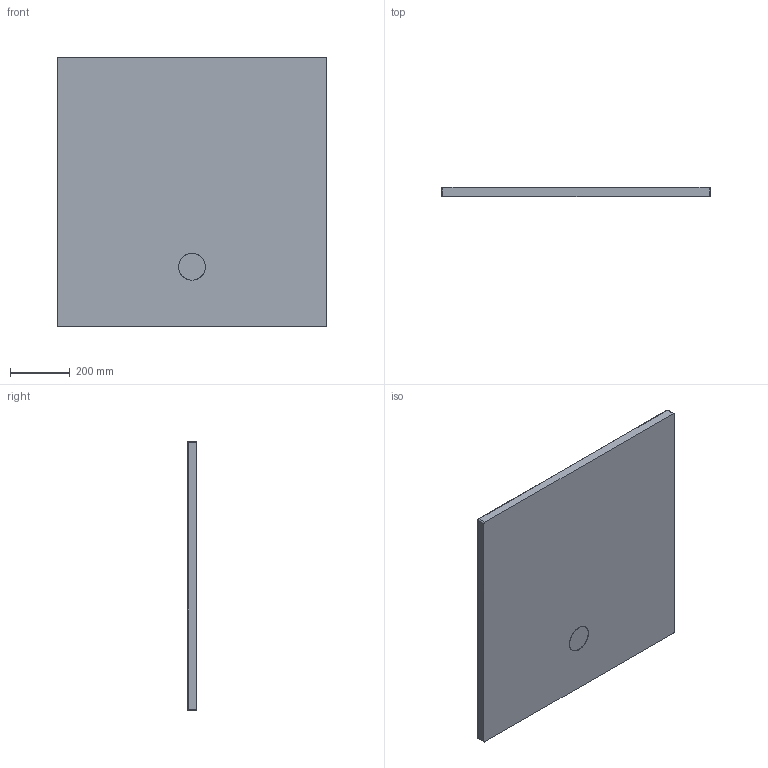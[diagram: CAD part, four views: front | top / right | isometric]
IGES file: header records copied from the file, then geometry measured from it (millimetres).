
Start section: SolidWorks IGES file using analytic representation for surfaces
Global section: file name: D:\Users\M.Szymanski\Desktop\Brodziki\SOLA\03. do przegrania\B_M_SOLA_90x90x1,5.IGS; native system: SolidWorks 2011; preprocessor: SolidWorks 2011; author: M.Szymanski; date: 180309.070722; units: millimetre
Bounding box: 900 x 30 x 900 mm (x, y, z)
Surface area: 1803233.4 mm2 (no closed solid volume)
Topology: 0 solids, 0 shells, 99 faces, 910 edges, 906 vertices
Faces by surface type: bspline 63, revolution 36
